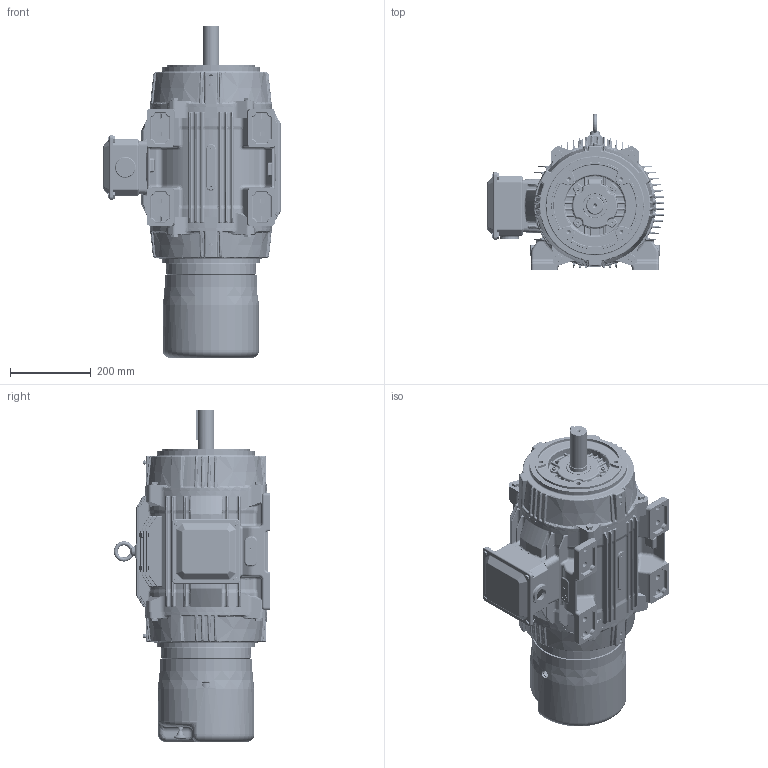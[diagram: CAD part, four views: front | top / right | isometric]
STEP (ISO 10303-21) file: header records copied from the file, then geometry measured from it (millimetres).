
FILE_DESCRIPTION (( 'STEP AP203' ), '1' );
FILE_NAME ('SS209622-200_RevB.STEP', '2021-07-08T06:38:34', ( '' ), ( '' ), 'SwSTEP 2.0', 'SolidWorks 2018', '' );
FILE_SCHEMA (( 'CONFIG_CONTROL_DESIGN' ));
Products named in the file (1): SS209622-200_RevB
Bounding box: 437.33 x 386.8 x 819.88 mm (x, y, z)
Volume: 14929966.1 mm3; surface area: 2670777.4 mm2
Topology: 46 solids, 46 shells, 8044 faces, 19204 edges, 11055 vertices
Faces by surface type: bspline 2671, cylinder 1851, plane 1262, torus 1256, cone 639, sphere 365
Entity records: 319245 total; most frequent: CARTESIAN_POINT 153285, ORIENTED_EDGE 37706, DIRECTION 31756, EDGE_CURVE 18853, AXIS2_PLACEMENT_3D 13776, VERTEX_POINT 11021, CIRCLE 8402, EDGE_LOOP 8328
